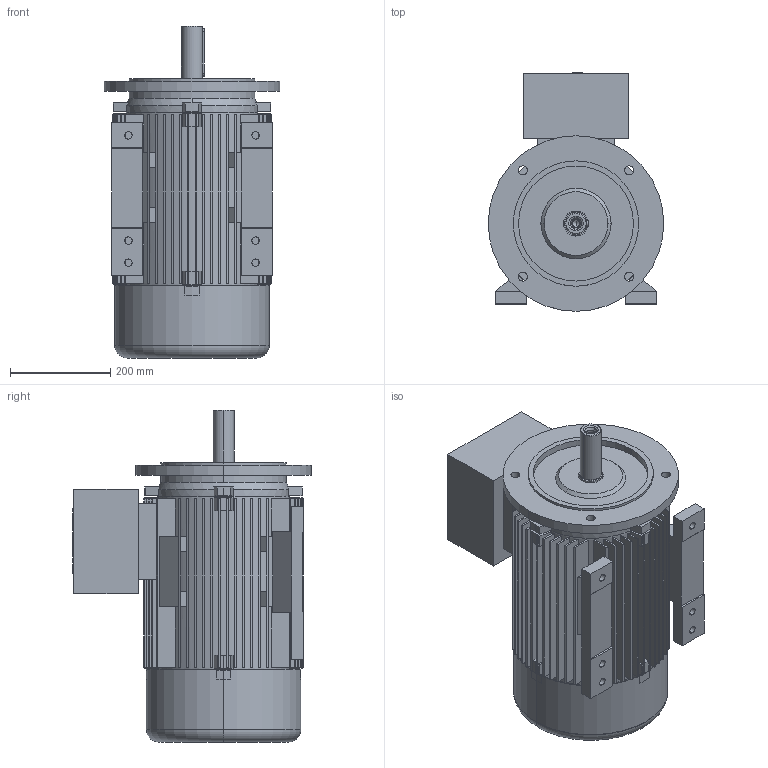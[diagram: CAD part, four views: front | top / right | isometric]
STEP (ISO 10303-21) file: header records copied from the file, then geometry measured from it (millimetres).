
FILE_DESCRIPTION (( 'STEP AP203' ), '1' );
FILE_NAME ('20.17504_C 7AT 160M&L B35 Exde STANDK.STEP', '2018-05-18T12:48:51', ( '' ), ( '' ), 'SwSTEP 2.0', 'SolidWorks 2017', '' );
FILE_SCHEMA (( 'CONFIG_CONTROL_DESIGN' ));
Length unit declared in the file: millimetre
Products named in the file (1): 20.17504_C 7AT 160M&L B35 Exde STANDK
Bounding box: 350 x 476 x 662 mm (x, y, z)
Volume: 17688401.5 mm3; surface area: 2869626.2 mm2
Topology: 9 solids, 9 shells, 752 faces, 2036 edges, 1343 vertices
Faces by surface type: plane 528, cylinder 181, cone 30, bspline 9, torus 4
Entity records: 23970 total; most frequent: CARTESIAN_POINT 4451, DIRECTION 4108, ORIENTED_EDGE 4052, EDGE_CURVE 2026, AXIS2_PLACEMENT_3D 1376, VECTOR 1356, LINE 1356, VERTEX_POINT 1343
